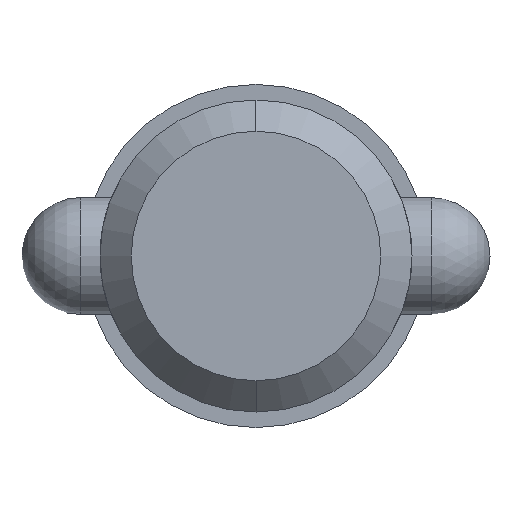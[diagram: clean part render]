
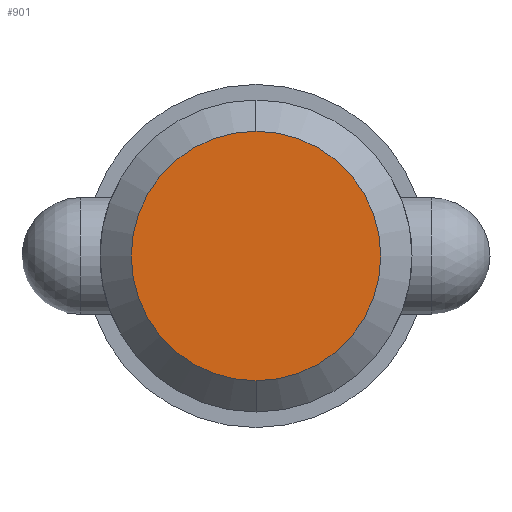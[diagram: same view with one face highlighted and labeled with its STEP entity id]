
A CAD part, left-side view. The second image highlights one B-rep face of the part: STEP entity #901.
In plain terms, the highlighted planar face has unit normal (-1, 0, 0).
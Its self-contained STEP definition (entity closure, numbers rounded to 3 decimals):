
#97 = ORIENTED_EDGE ( 'NONE', *, *, #978, .F. ) ;
#107 = DIRECTION ( 'NONE',  ( 0., 0., -1. ) ) ;
#150 = DIRECTION ( 'NONE',  ( 0., 0., -1. ) ) ;
#231 = CARTESIAN_POINT ( 'NONE',  ( 0., 0., 0. ) ) ;
#324 = AXIS2_PLACEMENT_3D ( 'NONE', #462, #940, #107 ) ;
#336 = EDGE_CURVE ( 'NONE', #638, #824, #1068, .T. ) ;
#364 = AXIS2_PLACEMENT_3D ( 'NONE', #514, #999, #843 ) ;
#438 = AXIS2_PLACEMENT_3D ( 'NONE', #231, #577, #150 ) ;
#462 = CARTESIAN_POINT ( 'NONE',  ( 0., 0., 0. ) ) ;
#476 = ORIENTED_EDGE ( 'NONE', *, *, #336, .F. ) ;
#514 = CARTESIAN_POINT ( 'NONE',  ( 0., 0., 0. ) ) ;
#521 = CIRCLE ( 'NONE', #324, 10.16 ) ;
#577 = DIRECTION ( 'NONE',  ( 1., 0., 0. ) ) ;
#607 = CARTESIAN_POINT ( 'NONE',  ( 0., 0., 10.16 ) ) ;
#638 = VERTEX_POINT ( 'NONE', #1033 ) ;
#674 = FACE_OUTER_BOUND ( 'NONE', #705, .T. ) ;
#705 = EDGE_LOOP ( 'NONE', ( #476, #97 ) ) ;
#750 = PLANE ( 'NONE',  #364 ) ;
#824 = VERTEX_POINT ( 'NONE', #607 ) ;
#843 = DIRECTION ( 'NONE',  ( 0., 0., 1. ) ) ;
#901 = ADVANCED_FACE ( 'NONE', ( #674 ), #750, .T. ) ;
#940 = DIRECTION ( 'NONE',  ( 1., 0., 0. ) ) ;
#978 = EDGE_CURVE ( 'NONE', #824, #638, #521, .T. ) ;
#999 = DIRECTION ( 'NONE',  ( -1., 0., 0. ) ) ;
#1033 = CARTESIAN_POINT ( 'NONE',  ( 0., 0., -10.16 ) ) ;
#1068 = CIRCLE ( 'NONE', #438, 10.16 ) ;
